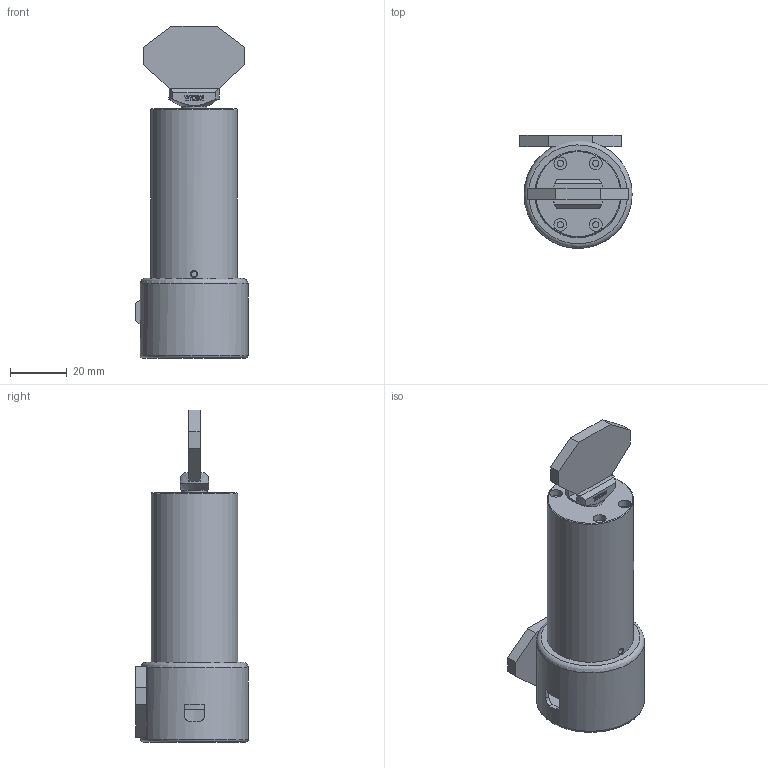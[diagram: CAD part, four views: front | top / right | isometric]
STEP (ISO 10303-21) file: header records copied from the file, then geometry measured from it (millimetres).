
FILE_DESCRIPTION( ( 'Unknown' ), '1' );
FILE_NAME( 'F:/方头/外形尺寸图/电机/3D/光栅电机/30mm光电光栅国产编码器带X镜片.stp', 'Unknown', ( 'Unknown' ), ( 'Unknown' ), 'XStep 1.0', 'Unknown', ' ' );
FILE_SCHEMA( ( 'CONFIG_CONTROL_DESIGN' ) );
Length unit declared in the file: millimetre
Products named in the file (3): Assem1; 1; 2
Bounding box: 39.47 x 39.72 x 116.77 mm (x, y, z)
Volume: 98638.5 mm3; surface area: 50930.5 mm2
Topology: 4 solids, 26 shells, 746 faces, 1962 edges, 1308 vertices
Faces by surface type: plane 426, cylinder 164, cone 74, extrusion 36, sphere 24, torus 14, bspline 8
Full cylindrical faces by diameter (mm): 0.1 x2, 1.075 x4, 1.567 x18, 2 x6, 2.013 x2, 2.1 x6, 2.2 x8, 3 x2, 4.5 x8, 5 x4, 6.05 x2, 6.35 x4, 6.9 x2, 7.35 x2, 8.4 x8, 8.95 x2, 9 x2, 9.525 x4, 9.9 x4, 10 x4, 10.719 x2, 11.4 x2, 12 x2, 13.8 x2, 16 x2, 18 x2, 30.48 x2, 32.4 x2, 34 x2, 34.2 x2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
Entity records: 11966 total; most frequent: CARTESIAN_POINT 3710, DIRECTION 1616, ORIENTED_EDGE 1476, EDGE_CURVE 738, AXIS2_PLACEMENT_3D 598, EDGE_LOOP 584, VERTEX_POINT 554, FACE_OUTER_BOUND 441
